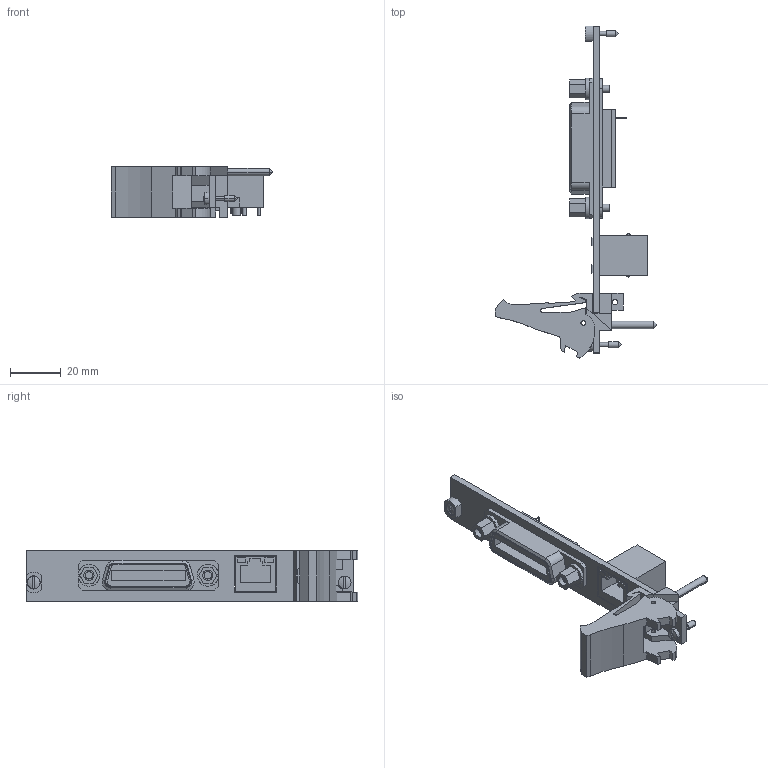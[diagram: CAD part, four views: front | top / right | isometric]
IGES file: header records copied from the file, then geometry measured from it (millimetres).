
Start section:  PTC IGES file: cu_pxi-8232.igs
Global section: file name: cu_pxi-8232.igs; native system: Creo Parametric by PTC Inc.; preprocessor: 2015380; author: hugyokog; organization: Unknown; date: 20180307.114202; units: inch
Bounding box: 63.53 x 130.62 x 20.02 mm (x, y, z)
Surface area: 18485 mm2 (no closed solid volume)
Topology: 0 solids, 0 shells, 379 faces, 2020 edges, 2016 vertices
Faces by surface type: bspline 266, revolution 113
